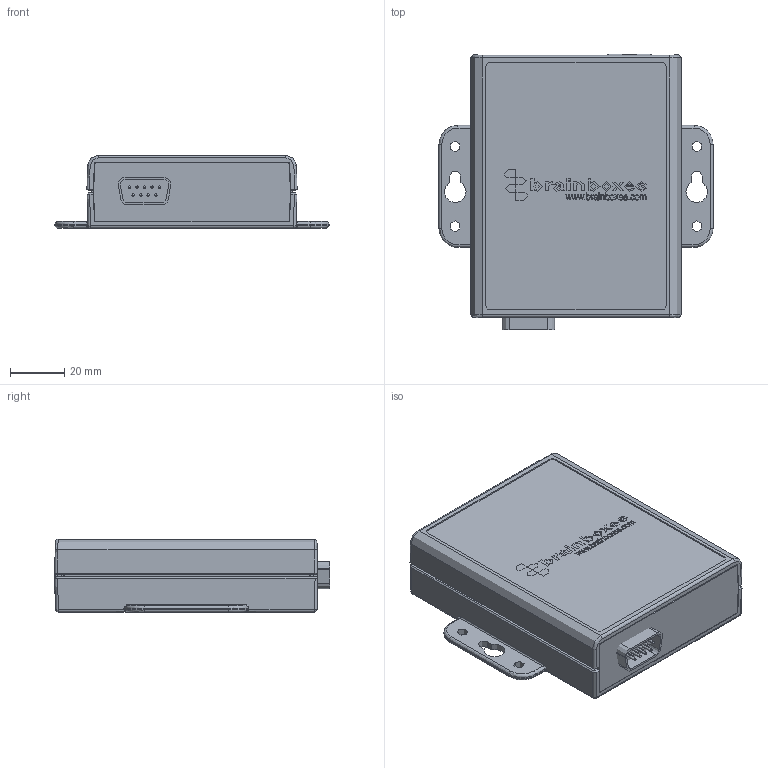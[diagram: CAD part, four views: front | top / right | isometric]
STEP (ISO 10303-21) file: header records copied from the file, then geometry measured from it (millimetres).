
FILE_DESCRIPTION(('STEP AP214'),'1');
FILE_NAME('ES-420 Cased 3D Step.step','2021-01-19T13:52:58',(' '),(' '),'Spatial InterOp 3D','XD3DPlugin XRACreate',' ');
FILE_SCHEMA(('automotive_design'));
Length unit declared in the file: millimetre
Products named in the file (50): Submodel-Input_S\00MAGJACKILED.xtd; 00MAGJACKILED; Submodel-00MAGJACKILED_part_simplified_MAGJACK_LEDS; DesignRootModel; Submodel-Input_S\50HEA5X2.xtd; 50HEA5X2; Submodel-50HEA5X2_part_simplified_H100MIL2X5; Submodel-Input_S\SMD_ELEC_8X10.xtd; SMD_ELEC_8X10; Submodel-75470UF6V3_part_simplified_SMD_ELEC_8X10; Submodel-Input_S\80AG9703-2BR.xtd; 80AG9703-2BR; Submodel-80AG97032BR_part_simplified_AG9700; Submodel-Input_S\SMD_ELEC_D.xtd; SMD_ELEC_D; Submodel-7547UF50V_part_simplified_SMD_ELEC_D; Submodel-Input_S\6610UH5A5.xtd; 6610UH5A5; Submodel-6610UH5A5_part_simplified_SRR1260; Submodel-Input_S\SMC.xtd; SMC; Submodel-55TZ1K5SMC36V_part_simplified_SMC; Submodel-Input_S\00MRD09.xtd; 00MRD09; Submodel-00MRD09_part_simplified_DB9RA_slash_M; Submodel-Input_S\00HEC3650_0.xtd; 00HEC3650_0; Submodel-00HEC3650_part_simplified_HEC3650; Submodel-Input_S\40SMTBUTTON_0.xtd; 40SMTBUTTON_0; Submodel-40SMTBUTTON_part_simplified_SMTBUTTON; Submodel-Input_S\50HEA4X2.xtd; 50HEA4X2; Submodel-50HEA4X2_part_simplified_H100MIL2X4; uid__9223372036854779050; Submodel-AssyDefn_53; 00ESUSCASELIDNOHOLES.step; Submodel-AssyDefn_52; CamdenEndPanel.sat; Submodel-AssyDefn_51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
Assembly tree (55 placements, depth 5):
  ES-420 Cased 3D Step
    DesignRootModel
      Submodel-00MAGJACKILED_part_simplified_MAGJACK_LEDS
        Submodel-Input_S\00MAGJACKILED.xtd
          00MAGJACKILED
      Submodel-50HEA5X2_part_simplified_H100MIL2X5  x2
        Submodel-Input_S\50HEA5X2.xtd
          50HEA5X2
      Submodel-75470UF6V3_part_simplified_SMD_ELEC_8X10
        Submodel-Input_S\SMD_ELEC_8X10.xtd
          SMD_ELEC_8X10
      Submodel-80AG97032BR_part_simplified_AG9700
        Submodel-Input_S\80AG9703-2BR.xtd
          80AG9703-2BR
      Submodel-7547UF50V_part_simplified_SMD_ELEC_D
        Submodel-Input_S\SMD_ELEC_D.xtd
          SMD_ELEC_D
      Submodel-6610UH5A5_part_simplified_SRR1260
        Submodel-Input_S\6610UH5A5.xtd
          6610UH5A5
      Submodel-55TZ1K5SMC36V_part_simplified_SMC  x3
        Submodel-Input_S\SMC.xtd
          SMC
      Submodel-00MRD09_part_simplified_DB9RA_slash_M
        Submodel-Input_S\00MRD09.xtd
          00MRD09
      Submodel-00HEC3650_part_simplified_HEC3650
        Submodel-Input_S\00HEC3650_0.xtd
          00HEC3650_0
      Submodel-40SMTBUTTON_part_simplified_SMTBUTTON
        Submodel-Input_S\40SMTBUTTON_0.xtd
          40SMTBUTTON_0
      Submodel-50HEA4X2_part_simplified_H100MIL2X4
        Submodel-Input_S\50HEA4X2.xtd
          50HEA4X2
      uid__9223372036854779050
      Submodel-AssyDefn_53
        00ESUSCASELIDNOHOLES.step
      Submodel-AssyDefn_52  x2
        CamdenEndPanel.sat
      Submodel-AssyDefn_51  x2
        BrainboxesLogo.sat
      Submodel-AssyDefn_49
        00ESUSCASEBASE.sat
      Submodel-FIDUCIAL_3219705766_part_FIDUCIAL
        Submodel-noModelForPart_FIDUCIAL_3219705766
          placementOutline
      Submodel-MOUNTINGHOLE_2132796670_part_MOUNTINGHOLE  x2
        Submodel-noModelForPart_MOUNTINGHOLE_2132796670
          placementOutline
Bounding box: 101 x 101.41 x 27.1 mm (x, y, z)
Volume: 77051.6 mm3; surface area: 85872.5 mm2
Topology: 133 solids, 855 shells, 6229 faces, 18153 edges, 12933 vertices
Faces by surface type: plane 4688, cylinder 795, bspline 638, torus 60, sphere 35, cone 13
Full cylindrical faces by diameter (mm): 0.6 x2
Entity records: 213582 total; most frequent: CARTESIAN_POINT 38025, ORIENTED_EDGE 26695, DIRECTION 25318, EDGE_CURVE 14232, LINE 11736, VECTOR 11736, VERTEX_POINT 9756, AXIS2_PLACEMENT_3D 6791
